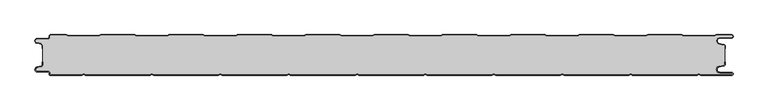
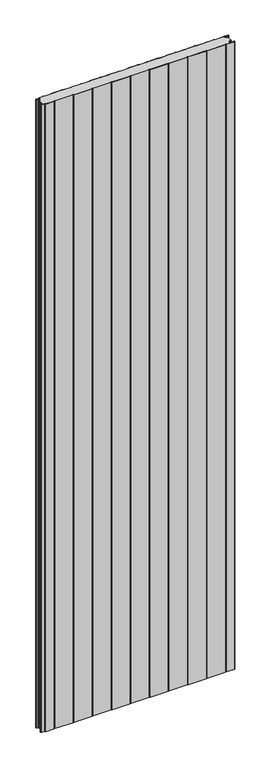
"""IFC4 building model written with IfcOpenShell, lengths in millimetres: plate geometry, PMH_Curtain-Panel_Perfil-Estándar : ACH_PMH_Panel-Acústico-Sectorización_60M."""

from ifc_helpers import new_model, si_unit, point, frame_2d, origin, origin_with_axes, place, context, project, spatial, polyline, circle_curve, trimmed, segment, composite_curve, outline, extrude, source, transform, mapped, element, save


def plate_d920e055(model_context):
    return source(origin(), model_context, "Body", "SweptSolid", [
        extrude(outline(composite_curve([segment(polyline([(-500.0, 15.878557), (-500.0, 20.0), (-499.2, 20.0), (-499.2, 15.878557)]), True, "CONTINUOUS"), segment(trimmed(circle_curve(frame_2d((-502.0, 15.878557)), 2.8), [point((-499.2, 15.878557))], [point((-501.370137, 13.1503208))], False, "CARTESIAN"), True, "CONTINUOUS"), segment(polyline([(-501.370137, 13.1503208), (-507.529863, 11.728236)]), True, "CONTINUOUS"), segment(trimmed(circle_curve(frame_2d((-506.9, 9.0)), 2.8), [point((-507.529863, 11.728236))], [point((-506.9, 6.2))], True, "CARTESIAN"), True, "CONTINUOUS"), segment(polyline([(-506.9, 6.2), (-491.4, 6.2)]), True, "CONTINUOUS"), segment(trimmed(circle_curve(frame_2d((-491.4, 3.4)), 2.8), [point((-491.4, 6.2))], [point((-488.6, 3.4))], False, "CARTESIAN"), True, "CONTINUOUS"), segment(polyline([(-488.6, 3.4), (-488.6, 2.0)]), True, "CONTINUOUS"), segment(trimmed(circle_curve(frame_2d((-487.4, 2.0)), 1.2), [point((-488.6, 2.0))], [point((-487.4, 0.8))], True, "CARTESIAN"), True, "CONTINUOUS"), segment(polyline([(-487.4, 0.8), (-442.3143588, 0.8), (-439.4, 2.482606), (-436.4856412, 0.8), (-342.3143588, 0.8), (-339.4, 2.482606), (-336.4856412, 0.8), (-242.3143588, 0.8), (-239.4, 2.482606), (-236.4856412, 0.8), (-142.3143588, 0.8), (-139.4, 2.482606), (-136.4856412, 0.8), (-42.3143588, 0.8), (-39.4, 2.482606), (-36.4856412, 0.8), (57.6856412, 0.8), (60.6, 2.482606), (63.5143588, 0.8), (157.6856412, 0.8), (160.6, 2.482606), (163.5143588, 0.8), (257.6856412, 0.8), (260.6, 2.482606), (263.5143588, 0.8), (357.6856412, 0.8), (360.6, 2.482606), (363.5143588, 0.8), (457.6856412, 0.8), (460.6, 2.482606), (463.5143588, 0.8), (508.1, 0.8)]), True, "CONTINUOUS"), segment(trimmed(circle_curve(frame_2d((508.1, 2.5)), 1.7), [point((508.1, 0.8))], [point((508.1, 4.2))], True, "CARTESIAN"), True, "CONTINUOUS"), segment(polyline([(508.1, 4.2), (491.1, 4.2)]), True, "CONTINUOUS"), segment(trimmed(circle_curve(frame_2d((491.1, 9.0)), 4.8), [point((491.1, 4.2))], [point((490.2664884, 13.7270771))], False, "CARTESIAN"), True, "CONTINUOUS"), segment(polyline([(490.2664884, 13.7270771), (496.7125669, 14.8636953)]), True, "CONTINUOUS"), segment(trimmed(circle_curve(frame_2d((496.4, 16.6363492)), 1.8), [point((496.7125669, 14.8636953))], [point((498.2, 16.6363492))], True, "CARTESIAN"), True, "CONTINUOUS"), segment(polyline([(498.2, 16.6363492), (498.2, 20.0), (499.0, 20.0), (499.0, 16.6363492)]), True, "CONTINUOUS"), segment(trimmed(circle_curve(frame_2d((496.4, 16.6363492)), 2.6), [point((499.0, 16.6363492))], [point((496.8514855, 14.0758491))], False, "CARTESIAN"), True, "CONTINUOUS"), segment(polyline([(496.8514855, 14.0758491), (490.405407, 12.939231)]), True, "CONTINUOUS"), segment(trimmed(circle_curve(frame_2d((491.1, 9.0)), 4.0), [point((490.405407, 12.939231))], [point((491.1, 5.0))], True, "CARTESIAN"), True, "CONTINUOUS"), segment(polyline([(491.1, 5.0), (508.1, 5.0)]), True, "CONTINUOUS"), segment(trimmed(circle_curve(frame_2d((508.1, 2.5)), 2.5), [point((508.1, 5.0))], [point((508.1, 0.0))], False, "CARTESIAN"), True, "CONTINUOUS"), segment(polyline([(508.1, 0.0), (463.2999995, 0.0), (460.6, 1.5588455), (457.9000005, 0.0), (363.2999995, 0.0), (360.6, 1.5588455), (357.9000005, 0.0), (263.2999995, 0.0), (260.6, 1.5588455), (257.9000005, 0.0), (163.2999995, 0.0), (160.6, 1.5588455), (157.9000005, 0.0), (63.2999995, 0.0), (60.6, 1.5588455), (57.9000005, 0.0), (-36.7000005, 0.0), (-39.4, 1.5588455), (-42.0999995, 0.0), (-136.7000005, 0.0), (-139.4, 1.5588455), (-142.0999995, 0.0), (-236.7000005, 0.0), (-239.4, 1.5588455), (-242.0999995, 0.0), (-336.7000005, 0.0), (-339.4, 1.5588455), (-342.0999995, 0.0), (-436.7000005, 0.0), (-439.4, 1.5588455), (-442.0999995, 0.0), (-487.4, 0.0)]), True, "CONTINUOUS"), segment(trimmed(circle_curve(frame_2d((-487.4, 2.0)), 2.0), [point((-487.4, 0.0))], [point((-489.4, 2.0))], False, "CARTESIAN"), True, "CONTINUOUS"), segment(polyline([(-489.4, 2.0), (-489.4, 3.4)]), True, "CONTINUOUS"), segment(trimmed(circle_curve(frame_2d((-491.4, 3.4)), 2.0), [point((-489.4, 3.4))], [point((-491.4, 5.4))], True, "CARTESIAN"), True, "CONTINUOUS"), segment(polyline([(-491.4, 5.4), (-506.9, 5.4)]), True, "CONTINUOUS"), segment(trimmed(circle_curve(frame_2d((-506.9, 9.0)), 3.6), [point((-506.9, 5.4))], [point((-507.7098239, 12.5077322))], False, "CARTESIAN"), True, "CONTINUOUS"), segment(polyline([(-507.7098239, 12.5077322), (-501.5500979, 13.929817)]), True, "CONTINUOUS"), segment(trimmed(circle_curve(frame_2d((-502.0, 15.878557)), 2.0), [point((-501.5500979, 13.929817))], [point((-500.0, 15.878557))], True, "CARTESIAN"), True, "CONTINUOUS")], self_intersect=False)), origin_with_axes(), (0.0, 0.0, 1.0), 3500.0),
        extrude(outline(composite_curve([segment(trimmed(circle_curve(frame_2d((-502.0, 44.121443)), 2.8), [point((-499.2, 44.121443))], [point((-501.370137, 46.8496792))], True, "CARTESIAN"), True, "CONTINUOUS"), segment(polyline([(-501.370137, 46.8496792), (-507.529863, 48.271764)]), True, "CONTINUOUS"), segment(trimmed(circle_curve(frame_2d((-506.9, 51.0)), 2.7999998), [point((-507.529863, 48.271764))], [point((-506.9, 53.7999998))], False, "CARTESIAN"), True, "CONTINUOUS"), segment(polyline([(-506.9, 53.7999998), (-491.4, 53.7999998)]), True, "CONTINUOUS"), segment(trimmed(circle_curve(frame_2d((-491.4, 56.5999998)), 2.8), [point((-491.4, 53.7999998))], [point((-488.6, 56.5999998))], True, "CARTESIAN"), True, "CONTINUOUS"), segment(polyline([(-488.6, 56.5999998), (-488.6, 58.0)]), True, "CONTINUOUS"), segment(trimmed(circle_curve(frame_2d((-487.4, 58.0)), 1.2), [point((-488.6, 58.0))], [point((-487.4, 59.2))], False, "CARTESIAN"), True, "CONTINUOUS"), segment(polyline([(-487.4, 59.2), (-464.6143592, 59.2), (-462.0162816, 57.7), (-416.7875654, 57.7), (-414.1894878, 59.2), (-364.6143592, 59.2), (-362.0162816, 57.7), (-316.7875654, 57.7), (-314.1894878, 59.2), (-264.6143592, 59.2), (-262.0162816, 57.7), (-216.7875654, 57.7), (-214.1894878, 59.2), (-164.6143592, 59.2), (-162.0162816, 57.7), (-116.7875654, 57.7), (-114.1894878, 59.2), (-64.6143592, 59.2), (-62.0162816, 57.7), (-16.7875654, 57.7), (-14.1894878, 59.2), (35.3856408, 59.2), (37.9837184, 57.7), (83.2124346, 57.7), (85.8105122, 59.2), (135.3856408, 59.2), (137.9837184, 57.7), (183.2124346, 57.7), (185.8105122, 59.2), (235.3856408, 59.2), (237.9837184, 57.7), (283.2124346, 57.7), (285.8105122, 59.2), (335.3856408, 59.2), (337.9837184, 57.7), (383.2124346, 57.7), (385.8105122, 59.2), (435.3856408, 59.2), (437.9837184, 57.7), (483.2124346, 57.7), (485.8105122, 59.2), (508.1, 59.2)]), True, "CONTINUOUS"), segment(trimmed(circle_curve(frame_2d((508.1, 57.5)), 1.7), [point((508.1, 59.2))], [point((508.1, 55.8000001))], False, "CARTESIAN"), True, "CONTINUOUS"), segment(polyline([(508.1, 55.8000001), (491.1, 55.8000001)]), True, "CONTINUOUS"), segment(trimmed(circle_curve(frame_2d((491.1, 51.0000002)), 4.7999999), [point((491.1, 55.8000001))], [point((490.266489, 46.272923))], True, "CARTESIAN"), True, "CONTINUOUS"), segment(polyline([(490.266489, 46.272923), (496.7125666, 45.1363059)]), True, "CONTINUOUS"), segment(trimmed(circle_curve(frame_2d((496.4, 43.363652)), 1.8), [point((496.7125666, 45.1363059))], [point((498.2, 43.363652))], False, "CARTESIAN"), True, "CONTINUOUS"), segment(polyline([(498.2, 43.363652), (498.2, 16.6363492)]), True, "CONTINUOUS"), segment(trimmed(circle_curve(frame_2d((496.4, 16.6363492)), 1.8), [point((498.2, 16.6363492))], [point((496.7125668, 14.8636953))], False, "CARTESIAN"), True, "CONTINUOUS"), segment(polyline([(496.7125668, 14.8636953), (490.2664883, 13.7270771)]), True, "CONTINUOUS"), segment(trimmed(circle_curve(frame_2d((491.1, 9.0)), 4.8), [point((490.2664883, 13.7270771))], [point((491.1, 4.2))], True, "CARTESIAN"), True, "CONTINUOUS"), segment(polyline([(491.1, 4.2), (508.1, 4.2)]), True, "CONTINUOUS"), segment(trimmed(circle_curve(frame_2d((508.1, 2.5)), 1.7), [point((508.1, 4.2))], [point((508.1, 0.8))], False, "CARTESIAN"), True, "CONTINUOUS"), segment(polyline([(508.1, 0.8), (463.5143587, 0.8), (460.5999999, 2.482606), (457.6856411, 0.8), (363.5143588, 0.8), (360.5999999, 2.482606), (357.6856411, 0.8), (263.5143588, 0.8), (260.5999999, 2.482606), (257.6856411, 0.8), (163.5143588, 0.8), (160.5999999, 2.482606), (157.6856411, 0.8), (63.5143588, 0.8), (60.5999999, 2.482606), (57.6856411, 0.8), (-36.4856412, 0.8), (-39.4000001, 2.482606), (-42.3143589, 0.8), (-136.4856412, 0.8), (-139.4000001, 2.482606), (-142.3143589, 0.8), (-236.4856412, 0.8), (-239.4000001, 2.482606), (-242.3143589, 0.8), (-336.4856412, 0.8), (-339.4000001, 2.482606), (-342.3143589, 0.8), (-436.4856412, 0.8), (-439.4000001, 2.482606), (-442.3143589, 0.8), (-487.4000001, 0.8)]), True, "CONTINUOUS"), segment(trimmed(circle_curve(frame_2d((-487.4000001, 2.0)), 1.2), [point((-487.4000001, 0.8))], [point((-488.6000001, 2.0))], False, "CARTESIAN"), True, "CONTINUOUS"), segment(polyline([(-488.6000001, 2.0), (-488.6000001, 3.4)]), True, "CONTINUOUS"), segment(trimmed(circle_curve(frame_2d((-491.4000001, 3.4)), 2.8), [point((-488.6000001, 3.4))], [point((-491.4000001, 6.2))], True, "CARTESIAN"), True, "CONTINUOUS"), segment(polyline([(-491.4000001, 6.2), (-506.9, 6.2)]), True, "CONTINUOUS"), segment(trimmed(circle_curve(frame_2d((-506.9, 9.0)), 2.8), [point((-506.9, 6.2))], [point((-507.5298631, 11.7282362))], False, "CARTESIAN"), True, "CONTINUOUS"), segment(polyline([(-507.5298631, 11.7282362), (-501.370137, 13.1503212)]), True, "CONTINUOUS"), segment(trimmed(circle_curve(frame_2d((-502.0, 15.8785573)), 2.8), [point((-501.370137, 13.1503212))], [point((-499.2, 15.8785573))], True, "CARTESIAN"), True, "CONTINUOUS"), segment(polyline([(-499.2, 15.8785573), (-499.2, 44.121443)]), True, "CONTINUOUS")], self_intersect=False)), origin_with_axes(), (0.0, 0.0, 1.0), 3500.0),
        extrude(outline(composite_curve([segment(polyline([(-487.4, 60.0), (-464.3999999, 60.0), (-461.8019223, 58.5), (-417.0019247, 58.5), (-414.4038471, 60.0), (-364.3999999, 60.0), (-361.8019223, 58.5), (-317.0019247, 58.5), (-314.4038471, 60.0), (-264.3999999, 60.0), (-261.8019223, 58.5), (-217.0019247, 58.5), (-214.4038471, 60.0), (-164.3999999, 60.0), (-161.8019223, 58.5), (-117.0019247, 58.5), (-114.4038471, 60.0), (-64.3999999, 60.0), (-61.8019223, 58.5), (-17.0019247, 58.5), (-14.4038471, 60.0), (35.6000001, 60.0), (38.1980777, 58.5), (82.9980753, 58.5), (85.5961529, 60.0), (135.6000001, 60.0), (138.1980777, 58.5), (182.9980753, 58.5), (185.5961529, 60.0), (235.6000001, 60.0), (238.1980777, 58.5), (282.9980753, 58.5), (285.5961529, 60.0), (335.6000001, 60.0), (338.1980777, 58.5), (382.9980753, 58.5), (385.5961529, 60.0), (435.6000001, 60.0), (438.1980777, 58.5), (482.9980753, 58.5), (485.5961529, 60.0), (508.1, 60.0)]), True, "CONTINUOUS"), segment(trimmed(circle_curve(frame_2d((508.1, 57.5)), 2.5), [point((508.1, 60.0))], [point((508.1, 55.0))], False, "CARTESIAN"), True, "CONTINUOUS"), segment(polyline([(508.1, 55.0), (491.1, 55.0)]), True, "CONTINUOUS"), segment(trimmed(circle_curve(frame_2d((491.1, 51.0)), 4.0), [point((491.1, 55.0))], [point((490.4054075, 47.060769))], True, "CARTESIAN"), True, "CONTINUOUS"), segment(polyline([(490.4054075, 47.060769), (496.8514851, 45.924152)]), True, "CONTINUOUS"), segment(trimmed(circle_curve(frame_2d((496.4, 43.363652)), 2.6), [point((496.8514851, 45.924152))], [point((499.0, 43.363652))], False, "CARTESIAN"), True, "CONTINUOUS"), segment(polyline([(499.0, 43.363652), (499.0, 40.0), (498.2, 40.0), (498.2, 43.363652)]), True, "CONTINUOUS"), segment(trimmed(circle_curve(frame_2d((496.4, 43.363652)), 1.8), [point((498.2, 43.363652))], [point((496.7125666, 45.136306))], True, "CARTESIAN"), True, "CONTINUOUS"), segment(polyline([(496.7125666, 45.136306), (490.266489, 46.2729229)]), True, "CONTINUOUS"), segment(trimmed(circle_curve(frame_2d((491.1, 51.0)), 4.8), [point((490.266489, 46.2729229))], [point((491.1, 55.8))], False, "CARTESIAN"), True, "CONTINUOUS"), segment(polyline([(491.1, 55.8), (508.1, 55.8)]), True, "CONTINUOUS"), segment(trimmed(circle_curve(frame_2d((508.1, 57.5)), 1.7), [point((508.1, 55.8))], [point((508.1, 59.2))], True, "CARTESIAN"), True, "CONTINUOUS"), segment(polyline([(508.1, 59.2), (485.8105122, 59.2), (483.2124346, 57.7), (437.9837184, 57.7), (435.3856408, 59.2), (385.8105122, 59.2), (383.2124346, 57.7), (337.9837184, 57.7), (335.3856408, 59.2), (285.8105122, 59.2), (283.2124346, 57.7), (237.9837184, 57.7), (235.3856408, 59.2), (185.8105122, 59.2), (183.2124346, 57.7), (137.9837184, 57.7), (135.3856408, 59.2), (85.8105122, 59.2), (83.2124346, 57.7), (37.9837184, 57.7), (35.3856408, 59.2), (-14.1894878, 59.2), (-16.7875654, 57.7), (-62.0162816, 57.7), (-64.6143592, 59.2), (-114.1894878, 59.2), (-116.7875654, 57.7), (-162.0162816, 57.7), (-164.6143592, 59.2), (-214.1894878, 59.2), (-216.7875654, 57.7), (-262.0162816, 57.7), (-264.6143592, 59.2), (-314.1894878, 59.2), (-316.7875654, 57.7), (-362.0162816, 57.7), (-364.6143592, 59.2), (-414.1894878, 59.2), (-416.7875654, 57.7), (-462.0162816, 57.7), (-464.6143592, 59.2), (-487.4, 59.2)]), True, "CONTINUOUS"), segment(trimmed(circle_curve(frame_2d((-487.4, 58.0)), 1.2), [point((-487.4, 59.2))], [point((-488.6, 58.0))], True, "CARTESIAN"), True, "CONTINUOUS"), segment(polyline([(-488.6, 58.0), (-488.6, 56.6)]), True, "CONTINUOUS"), segment(trimmed(circle_curve(frame_2d((-491.4, 56.6)), 2.8), [point((-488.6, 56.6))], [point((-491.4, 53.8))], False, "CARTESIAN"), True, "CONTINUOUS"), segment(polyline([(-491.4, 53.8), (-506.9, 53.8)]), True, "CONTINUOUS"), segment(trimmed(circle_curve(frame_2d((-506.9, 51.0)), 2.8), [point((-506.9, 53.8))], [point((-507.529863, 48.2717638))], True, "CARTESIAN"), True, "CONTINUOUS"), segment(polyline([(-507.529863, 48.2717638), (-501.370137, 46.849679)]), True, "CONTINUOUS"), segment(trimmed(circle_curve(frame_2d((-502.0, 44.121443)), 2.8), [point((-501.370137, 46.849679))], [point((-499.2, 44.121443))], False, "CARTESIAN"), True, "CONTINUOUS"), segment(polyline([(-499.2, 44.121443), (-499.2, 40.0), (-500.0, 40.0), (-500.0, 44.121443)]), True, "CONTINUOUS"), segment(trimmed(circle_curve(frame_2d((-502.0, 44.121443)), 2.0), [point((-500.0, 44.121443))], [point((-501.5500978, 46.0701831))], True, "CARTESIAN"), True, "CONTINUOUS"), segment(polyline([(-501.5500978, 46.0701831), (-507.7098239, 47.492268)]), True, "CONTINUOUS"), segment(trimmed(circle_curve(frame_2d((-506.9, 51.0)), 3.6), [point((-507.7098239, 47.492268))], [point((-506.9, 54.6))], False, "CARTESIAN"), True, "CONTINUOUS"), segment(polyline([(-506.9, 54.6), (-491.4, 54.6)]), True, "CONTINUOUS"), segment(trimmed(circle_curve(frame_2d((-491.4, 56.6)), 2.0), [point((-491.4, 54.6))], [point((-489.4, 56.6))], True, "CARTESIAN"), True, "CONTINUOUS"), segment(polyline([(-489.4, 56.6), (-489.4, 58.0)]), True, "CONTINUOUS"), segment(trimmed(circle_curve(frame_2d((-487.4, 58.0)), 2.0), [point((-489.4, 58.0))], [point((-487.4, 60.0))], False, "CARTESIAN"), True, "CONTINUOUS")], self_intersect=False)), origin_with_axes(), (0.0, 0.0, 1.0), 3500.0),
    ])


if __name__ == "__main__":
    model = new_model("IFC4")
    model_context = context("Model", 3, world=origin())
    ifc_project = project(units=[si_unit("LENGTHUNIT", "METRE", prefix="MILLI")], contexts=[model_context])
    site = spatial("IfcSite", under=ifc_project)
    building = spatial("IfcBuilding", under=site)
    placement = place(None, origin())
    plate_shape = plate_d920e055(model_context)
    element("IfcPlate", 1, ObjectType="PMH_Curtain-Panel_Perfil-Estándar : ACH_PMH_Panel-Acústico-Sectorización_60M", at=placement, inside=building, context=model_context, shape_type="MappedRepresentation", body=[
        mapped(plate_shape, transform((0.0, 0.0, 0.0), x_axis=(1.0, 0.0, 0.0), y_axis=(0.0, 1.0, 0.0), z_axis=(0.0, 0.0, 1.0))),
    ])
    save(model, "model.ifc")
